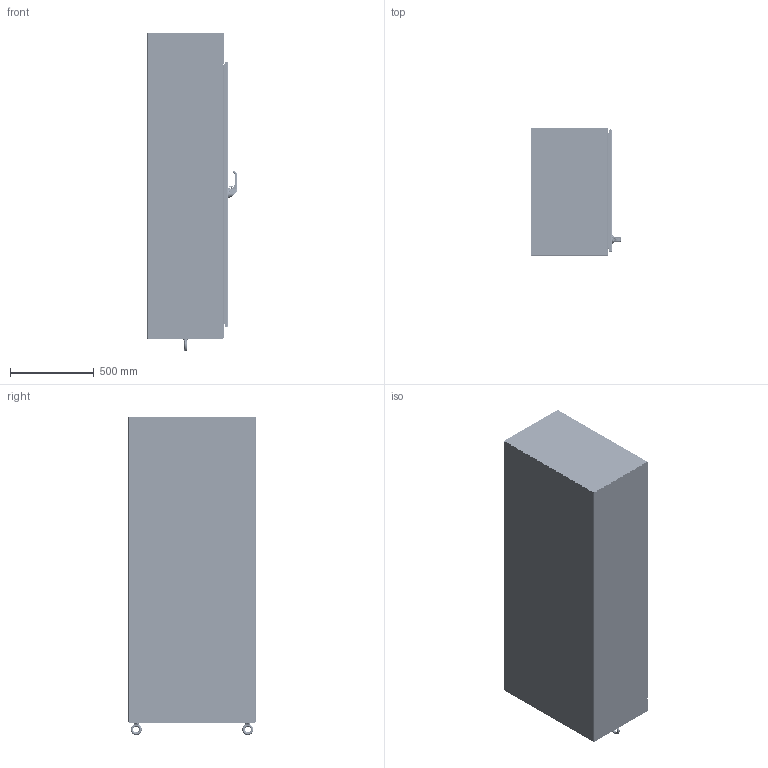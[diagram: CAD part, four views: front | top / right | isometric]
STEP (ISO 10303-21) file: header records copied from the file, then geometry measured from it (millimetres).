
FILE_DESCRIPTION((''),'2;1');
FILE_NAME('MODEL-237_ASM','2026-06-01T12:45:43',('joshi'),('SAGINAW CONTROL & ENGINEERING'),'CREO PARAMETRIC BY PTC INC, 2021284','CREO PARAMETRIC BY PTC INC, 2021284','');
FILE_SCHEMA(('AUTOMOTIVE_DESIGN { 1 0 10303 214 1 1 1 1 }'));
Length unit declared in the file: inch
Products named in the file (61): MODEL-237-L-SD; MODEL-237-TP; MODEL-237-R-SD; MODEL-237-BTM; MODEL-237-DR; 100837; 111267; 100882; 100955_SCREW_MTG; 100955_PADLOCK_CATCH; 100955_SCREW_LARGE; 100955_INSERT_SHAFT; 100955_INSERT_PKH; 100955_GASKET; 100955_O-RING; 100955_BASE; 100955_SPRING; 100955_HANDLE; 100955_CAM_SHAFT; 100955_HANDLE_ASM; 100955_CAM_ADAPTER; 100955_EARTH_NUT; 100955_FLANGE_NUT; 100955_CAM_NUT; 100955_KEY_INSERT; 100955_SPRING_CAM; 100955_TORSION_SPRING; 100955_SCREW_INSERT; 100955_ASM; 102237; 100030; 102237_ASM; MODEL-237-ROD-UPR; 128146; 128145; 128144; 102482; MODEL-237-ROD-UPR_ASM; 128143; 112504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
Assembly tree (105 placements, depth 5):
  MODEL-237_ASM
    MODEL-237-L-SD
    MODEL-237-TP
    MODEL-237-R-SD
    MODEL-237-BTM
    MODEL-237-DOOR-ASSY_ASM
      MODEL-237-DR
      100837  x5
      111267
      100882  x10
      100955_ASM
        100955_SCREW_MTG
        100955_PADLOCK_CATCH
        100955_SCREW_LARGE  x2
        100955_INSERT_SHAFT
        100955_INSERT_PKH
        100955_GASKET
        100955_O-RING
        100955_BASE
        100955_SPRING
        100955_HANDLE_ASM
          100955_HANDLE
          100955_CAM_SHAFT
        100955_CAM_ADAPTER
        100955_EARTH_NUT
        100955_FLANGE_NUT
        100955_CAM_NUT
        100955_KEY_INSERT
        100955_SPRING_CAM
        100955_TORSION_SPRING
        100955_SCREW_INSERT
      102237_ASM
        102237
        100030  x2
      MODEL-237-ROD-UPR_ASM
        MODEL-237-ROD-UPR
        128146
        128145
        128144
        102482  x2
      128143  x2
      112504  x2
      MODEL-237-ROD-LWR_ASM
        MODEL-237-ROD-LWR
        128146
        128145
        128144
        102482  x2
      MODEL-237-PR-GSKT
      128258_ASM  x3
        128258
      126395  x3
      102483  x3
      101383_ASM  x3
        101383
        101383-STUD
      101221  x3
      125597
    100837  x3
    MODEL-237-B42  x6
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Bounding box: 535.45 x 762 x 1903.6 mm (x, y, z)
Volume: 16539976 mm3; surface area: 12310843.9 mm2
Topology: 109 solids, 109 shells, 11037 faces, 28422 edges, 17561 vertices
Faces by surface type: plane 3855, cylinder 2882, bspline 2578, torus 799, cone 631, sphere 262, extrusion 30
Entity records: 359640 total; most frequent: CARTESIAN_POINT 149642, ORIENTED_EDGE 32490, DIRECTION 28821, PRESENTATION_STYLE_ASSIGNMENT 16872, STYLED_ITEM 16865, CURVE_STYLE 16245, EDGE_CURVE 16245, AXIS2_PLACEMENT_3D 10702
